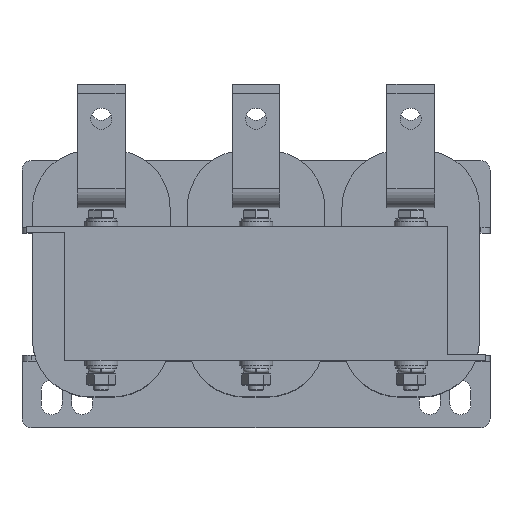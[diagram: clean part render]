
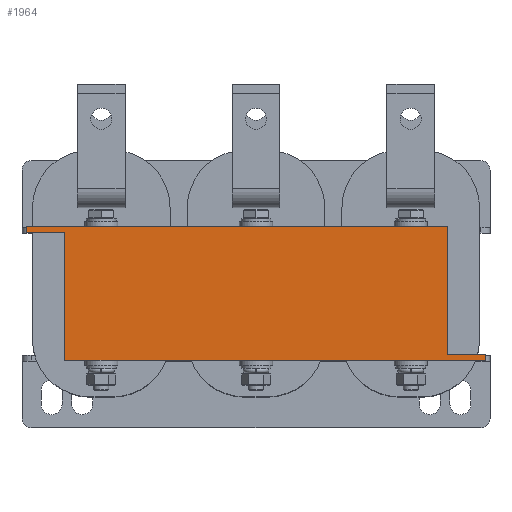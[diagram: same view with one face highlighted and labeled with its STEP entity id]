
A CAD part, top view. The second image highlights one B-rep face of the part: STEP entity #1964.
In plain terms, the highlighted planar face has unit normal (0, 0, 1).
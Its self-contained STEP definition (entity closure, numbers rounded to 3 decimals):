
#1964=ADVANCED_FACE('',(#2726),#2728,.T.);
#2726=FACE_BOUND('',#2727,.T.);
#2727=EDGE_LOOP('',(#3630,#3631,#3632,#3633,#3634,#3635,#3636,#3637));
#2728=PLANE('',#2729);
#2729=AXIS2_PLACEMENT_3D('',#2730,#2731,#2732);
#2730=CARTESIAN_POINT('',(0.,0.,42.));
#2731=DIRECTION('',(0.,0.,1.));
#2732=DIRECTION('',(-1.,0.,0.));
#3630=ORIENTED_EDGE('',*,*,#4072,.T.);
#3631=ORIENTED_EDGE('',*,*,#4091,.T.);
#3632=ORIENTED_EDGE('',*,*,#4061,.T.);
#3633=ORIENTED_EDGE('',*,*,#4092,.T.);
#3634=ORIENTED_EDGE('',*,*,#4053,.T.);
#3635=ORIENTED_EDGE('',*,*,#4093,.T.);
#3636=ORIENTED_EDGE('',*,*,#4042,.T.);
#3637=ORIENTED_EDGE('',*,*,#4090,.T.);
#4042=EDGE_CURVE('',#4496,#4494,#4497,.T.);
#4053=EDGE_CURVE('',#4518,#4516,#4519,.T.);
#4061=EDGE_CURVE('',#4534,#4532,#4535,.T.);
#4072=EDGE_CURVE('',#4556,#4554,#4557,.T.);
#4090=EDGE_CURVE('',#4494,#4556,#4579,.T.);
#4091=EDGE_CURVE('',#4554,#4534,#4580,.T.);
#4092=EDGE_CURVE('',#4532,#4518,#4581,.T.);
#4093=EDGE_CURVE('',#4516,#4496,#4582,.T.);
#4494=VERTEX_POINT('',#5450);
#4496=VERTEX_POINT('',#5454);
#4497=LINE('',#5455,#5456);
#4516=VERTEX_POINT('',#5499);
#4518=VERTEX_POINT('',#5503);
#4519=LINE('',#5504,#5505);
#4532=VERTEX_POINT('',#5533);
#4534=VERTEX_POINT('',#5537);
#4535=LINE('',#5538,#5539);
#4554=VERTEX_POINT('',#5582);
#4556=VERTEX_POINT('',#5586);
#4557=LINE('',#5587,#5588);
#4579=LINE('',#5647,#5648);
#4580=LINE('',#5650,#5651);
#4581=LINE('',#5653,#5654);
#4582=LINE('',#5656,#5657);
#5450=CARTESIAN_POINT('',(-120.,35.,42.));
#5454=CARTESIAN_POINT('',(100.,35.,42.));
#5455=CARTESIAN_POINT('',(100.,35.,42.));
#5456=VECTOR('',#5457,1.);
#5457=DIRECTION('',(-1.,0.,0.));
#5499=CARTESIAN_POINT('',(100.,-32.,42.));
#5503=CARTESIAN_POINT('',(120.,-32.,42.));
#5504=CARTESIAN_POINT('',(120.,-32.,42.));
#5505=VECTOR('',#5506,1.);
#5506=DIRECTION('',(-1.,0.,0.));
#5533=CARTESIAN_POINT('',(120.,-35.,42.));
#5537=CARTESIAN_POINT('',(-100.,-35.,42.));
#5538=CARTESIAN_POINT('',(-100.,-35.,42.));
#5539=VECTOR('',#5540,1.);
#5540=DIRECTION('',(1.,0.,0.));
#5582=CARTESIAN_POINT('',(-100.,32.,42.));
#5586=CARTESIAN_POINT('',(-120.,32.,42.));
#5587=CARTESIAN_POINT('',(-120.,32.,42.));
#5588=VECTOR('',#5589,1.);
#5589=DIRECTION('',(1.,0.,0.));
#5647=CARTESIAN_POINT('',(-120.,35.,42.));
#5648=VECTOR('',#5649,1.);
#5649=DIRECTION('',(0.,-1.,0.));
#5650=CARTESIAN_POINT('',(-100.,32.,42.));
#5651=VECTOR('',#5652,1.);
#5652=DIRECTION('',(0.,-1.,0.));
#5653=CARTESIAN_POINT('',(120.,-35.,42.));
#5654=VECTOR('',#5655,1.);
#5655=DIRECTION('',(0.,1.,0.));
#5656=CARTESIAN_POINT('',(100.,-32.,42.));
#5657=VECTOR('',#5658,1.);
#5658=DIRECTION('',(0.,1.,0.));
